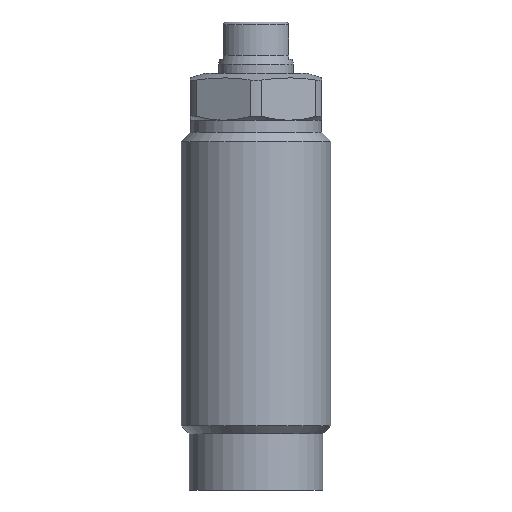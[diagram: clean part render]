
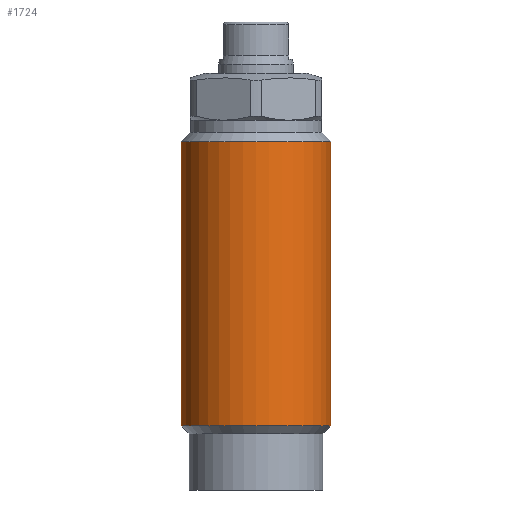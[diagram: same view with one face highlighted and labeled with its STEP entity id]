
A CAD part, front view. The second image highlights one B-rep face of the part: STEP entity #1724.
In plain terms, the highlighted cylindrical face has radius 8 mm (diameter 16 mm), a partial arc.
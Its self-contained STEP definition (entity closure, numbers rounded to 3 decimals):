
#1661=CARTESIAN_POINT('',(-8.,0.0,-37.65));
#1662=VERTEX_POINT('',#1661);
#1670=CARTESIAN_POINT('',(8.,0.0,-37.65));
#1671=VERTEX_POINT('',#1670);
#1678=CARTESIAN_POINT('',(0.0,0.0,-37.65));
#1679=DIRECTION('',(0.0,0.0,1.0));
#1680=DIRECTION('',(1.0,0.0,0.0));
#1681=AXIS2_PLACEMENT_3D('',#1678,#1679,#1680);
#1682=CIRCLE('',#1681,8.);
#1683=EDGE_CURVE('no 2335',#1662,#1671,#1682,.T.);
#1693=CARTESIAN_POINT('',(-8.,0.0,-7.3));
#1694=VERTEX_POINT('',#1693);
#1695=CARTESIAN_POINT('',(-8.,0.0,-37.65));
#1696=DIRECTION('',(0.,-0.0,1.0));
#1697=VECTOR('',#1696,1.0);
#1698=LINE('',#1695,#1697);
#1699=EDGE_CURVE('no 2345',#1662,#1694,#1698,.T.);
#1700=ORIENTED_EDGE('',*,*,#1699,.F.);
#1701=ORIENTED_EDGE('',*,*,#1683,.T.);
#1702=CARTESIAN_POINT('',(8.,0.0,-7.3));
#1703=VERTEX_POINT('',#1702);
#1704=CARTESIAN_POINT('',(8.,0.0,-37.65));
#1705=DIRECTION('',(0.,0.0,1.0));
#1706=VECTOR('',#1705,1.0);
#1707=LINE('',#1704,#1706);
#1708=EDGE_CURVE('no 2353',#1671,#1703,#1707,.T.);
#1709=ORIENTED_EDGE('',*,*,#1708,.T.);
#1710=CARTESIAN_POINT('',(0.0,0.0,-7.3));
#1711=DIRECTION('',(0.0,0.0,1.0));
#1712=DIRECTION('',(1.0,0.0,0.0));
#1713=AXIS2_PLACEMENT_3D('',#1710,#1711,#1712);
#1714=CIRCLE('',#1713,8.);
#1715=EDGE_CURVE('no 2357',#1694,#1703,#1714,.T.);
#1716=ORIENTED_EDGE('',*,*,#1715,.F.);
#1717=EDGE_LOOP('',(#1700,#1701,#1709,#1716));
#1718=FACE_OUTER_BOUND('',#1717,.T.);
#1719=CARTESIAN_POINT('',(0.0,0.0,8.838));
#1720=DIRECTION('',(0.0,0.0,1.0));
#1721=DIRECTION('',(0.0,1.0,0.0));
#1722=AXIS2_PLACEMENT_3D('',#1719,#1720,#1721);
#1723=CYLINDRICAL_SURFACE('',#1722,8.);
#1724=ADVANCED_FACE('no 2338',(#1718),#1723,.T.);
